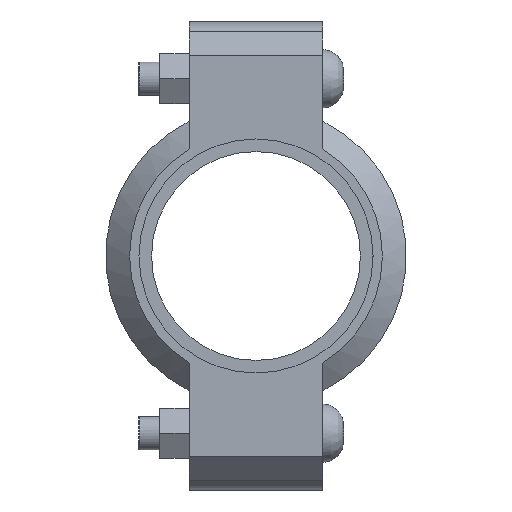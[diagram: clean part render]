
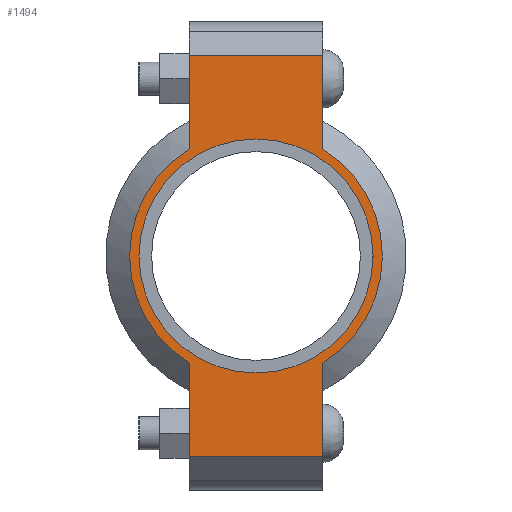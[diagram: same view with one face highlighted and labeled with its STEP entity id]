
A CAD part, left-side view. The second image highlights one B-rep face of the part: STEP entity #1494.
In plain terms, the highlighted planar face has unit normal (-1, 0, 0) as drawn and (0, 0, 1) by its records, which use the part's own axes.
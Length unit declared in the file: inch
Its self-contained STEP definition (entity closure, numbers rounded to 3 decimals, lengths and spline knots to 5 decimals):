
#118=LINE('',#2607,#211);
#126=LINE('',#2643,#219);
#133=LINE('',#2664,#226);
#142=LINE('',#2696,#235);
#143=LINE('',#2700,#236);
#144=LINE('',#2702,#237);
#211=VECTOR('',#2135,0.3937);
#219=VECTOR('',#2151,0.3937);
#226=VECTOR('',#2170,0.3937);
#235=VECTOR('',#2195,0.3937);
#236=VECTOR('',#2200,0.3937);
#237=VECTOR('',#2201,0.3937);
#293=FACE_BOUND('',#471,.T.);
#365=FACE_OUTER_BOUND('',#470,.T.);
#470=EDGE_LOOP('',(#1235,#1236,#1237,#1238,#1239,#1240,#1241,#1242));
#471=EDGE_LOOP('',(#1243));
#543=CIRCLE('',#1713,1.75);
#569=CIRCLE('',#1772,1.89);
#570=CIRCLE('',#1773,1.89);
#635=VERTEX_POINT('',#2423);
#678=VERTEX_POINT('',#2604);
#679=VERTEX_POINT('',#2606);
#690=VERTEX_POINT('',#2638);
#691=VERTEX_POINT('',#2642);
#698=VERTEX_POINT('',#2661);
#699=VERTEX_POINT('',#2663);
#709=VERTEX_POINT('',#2699);
#710=VERTEX_POINT('',#2701);
#791=EDGE_CURVE('',#635,#635,#543,.T.);
#852=EDGE_CURVE('',#679,#678,#118,.T.);
#866=EDGE_CURVE('',#691,#690,#126,.T.);
#876=EDGE_CURVE('',#699,#698,#133,.T.);
#891=EDGE_CURVE('',#691,#678,#142,.T.);
#892=EDGE_CURVE('',#690,#699,#569,.T.);
#893=EDGE_CURVE('',#709,#698,#143,.T.);
#894=EDGE_CURVE('',#709,#710,#144,.T.);
#895=EDGE_CURVE('',#710,#679,#570,.T.);
#1235=ORIENTED_EDGE('',*,*,#891,.F.);
#1236=ORIENTED_EDGE('',*,*,#866,.T.);
#1237=ORIENTED_EDGE('',*,*,#892,.T.);
#1238=ORIENTED_EDGE('',*,*,#876,.T.);
#1239=ORIENTED_EDGE('',*,*,#893,.F.);
#1240=ORIENTED_EDGE('',*,*,#894,.T.);
#1241=ORIENTED_EDGE('',*,*,#895,.T.);
#1242=ORIENTED_EDGE('',*,*,#852,.T.);
#1243=ORIENTED_EDGE('',*,*,#791,.T.);
#1336=PLANE('',#1771);
#1494=ADVANCED_FACE('',(#365,#293),#1336,.T.);
#1713=AXIS2_PLACEMENT_3D('',#2425,#2011,#2012);
#1771=AXIS2_PLACEMENT_3D('',#2697,#2196,#2197);
#1772=AXIS2_PLACEMENT_3D('',#2698,#2198,#2199);
#1773=AXIS2_PLACEMENT_3D('',#2703,#2202,#2203);
#2011=DIRECTION('center_axis',(0.,0.,-1.));
#2012=DIRECTION('ref_axis',(-1.,0.,0.));
#2135=DIRECTION('',(-1.,0.,0.));
#2151=DIRECTION('',(1.,0.,0.));
#2170=DIRECTION('',(1.,0.,0.));
#2195=DIRECTION('',(0.,1.,0.));
#2196=DIRECTION('center_axis',(0.,0.,1.));
#2197=DIRECTION('ref_axis',(1.,0.,0.));
#2198=DIRECTION('center_axis',(0.,0.,1.));
#2199=DIRECTION('ref_axis',(-1.,0.,0.));
#2200=DIRECTION('',(0.,-1.,0.));
#2201=DIRECTION('',(-1.,0.,0.));
#2202=DIRECTION('center_axis',(0.,0.,1.));
#2203=DIRECTION('ref_axis',(-1.,0.,0.));
#2423=CARTESIAN_POINT('',(1.75,0.,0.94));
#2425=CARTESIAN_POINT('Origin',(0.,0.,0.94));
#2604=CARTESIAN_POINT('',(-3.,1.,0.94));
#2606=CARTESIAN_POINT('',(-1.60378,1.,0.94));
#2607=CARTESIAN_POINT('',(-3.5,1.,0.94));
#2638=CARTESIAN_POINT('',(-1.60378,-1.,0.94));
#2642=CARTESIAN_POINT('',(-3.,-1.,0.94));
#2643=CARTESIAN_POINT('',(3.5,-1.,0.94));
#2661=CARTESIAN_POINT('',(3.,-1.,0.94));
#2663=CARTESIAN_POINT('',(1.60378,-1.,0.94));
#2664=CARTESIAN_POINT('',(3.5,-1.,0.94));
#2696=CARTESIAN_POINT('',(-3.,0.5,0.94));
#2697=CARTESIAN_POINT('Origin',(0.,0.,
0.94));
#2698=CARTESIAN_POINT('Origin',(0.,0.,0.94));
#2699=CARTESIAN_POINT('',(3.,1.,0.94));
#2700=CARTESIAN_POINT('',(3.,-0.5,0.94));
#2701=CARTESIAN_POINT('',(1.60378,1.,0.94));
#2702=CARTESIAN_POINT('',(-3.5,1.,0.94));
#2703=CARTESIAN_POINT('Origin',(0.,0.,0.94));
